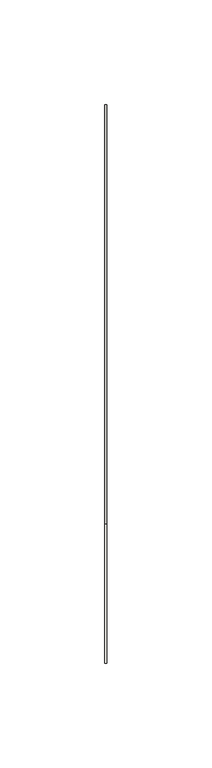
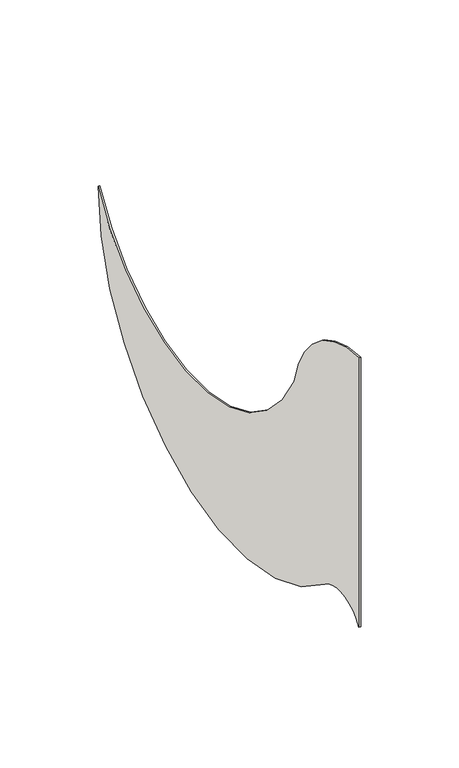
"""IFC4 building model written with IfcOpenShell, lengths in millimetres: wall geometry, 小旗2 : 小旗."""

from ifc_helpers import new_model, si_unit, point, frame, frame_2d, origin, place, context, project, spatial, polyline, circle_curve, trimmed, segment, composite_curve, outline, extrude, source, transform, mapped, element, save


def wall_0e958e5c(model_context):
    return source(origin(), model_context, "Body", "SweptSolid", [
        extrude(outline(composite_curve([segment(trimmed(circle_curve(frame_2d((1722.9183811, 5219.8746111)), 23.4648855), [point((1737.9183811, 5237.9190243))], [point((1703.079125, 5232.4047654))], True, "CARTESIAN"), True, "CONTINUOUS"), segment(polyline([(1703.079125, 5232.4047654), (1703.079125, 5400.0225996)]), True, "CONTINUOUS"), segment(trimmed(circle_curve(frame_2d((1701.8927213, 5331.3505675)), 68.6822798), [point((1703.079125, 5400.0225996))], [point((1769.1304027, 5345.3630532))], False, "CARTESIAN"), True, "CONTINUOUS"), segment(trimmed(circle_curve(frame_2d((1869.1304027, 5396.3289437)), 112.2386831), [point((1769.1304027, 5345.3630532))], [point((1969.1304027, 5345.3630532))], True, "CARTESIAN"), True, "CONTINUOUS"), segment(trimmed(circle_curve(frame_2d((1828.0846684, 5346.3855411)), 141.0494404), [point((1969.1304027, 5345.3630532))], [point((1737.9183811, 5237.9190243))], False, "CARTESIAN"), True, "CONTINUOUS")], self_intersect=False)), frame((-7589.8275783, 0.0, 0.0), z_axis=(1.0, 0.0, 0.0), x_axis=(0.0, 1.0, 0.0)), (0.0, 0.0, 1.0), 1.0),
    ])


if __name__ == "__main__":
    model = new_model("IFC4")
    model_context = context("Model", 3, world=origin())
    ifc_project = project(units=[si_unit("LENGTHUNIT", "METRE", prefix="MILLI")], contexts=[model_context])
    site = spatial("IfcSite", under=ifc_project)
    building = spatial("IfcBuilding", under=site)
    placement = place(None, origin())
    wall_shape = wall_0e958e5c(model_context)
    element("IfcWall", 1, ObjectType="小旗2 : 小旗", at=placement, inside=building, context=model_context, shape_type="MappedRepresentation", body=[
        mapped(wall_shape, transform((0.0, 0.0, 0.0), x_axis=(1.0, 0.0, 0.0), y_axis=(0.0, 1.0, 0.0), z_axis=(0.0, 0.0, 1.0))),
    ])
    save(model, "model.ifc")
